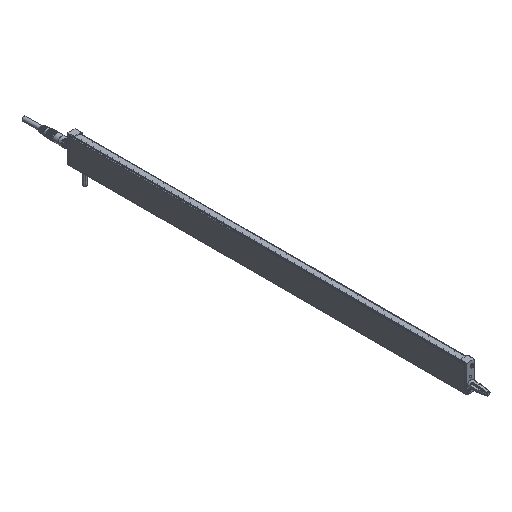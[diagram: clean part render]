
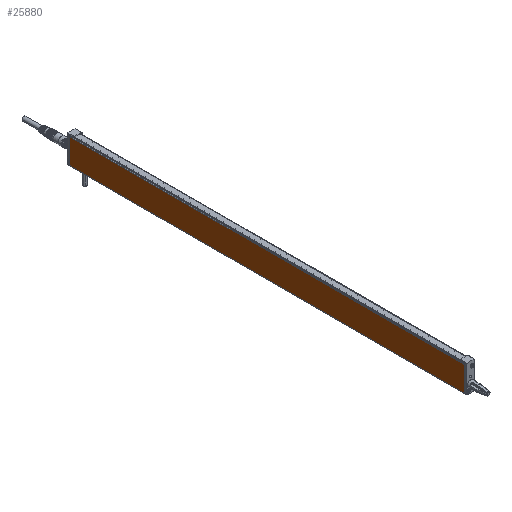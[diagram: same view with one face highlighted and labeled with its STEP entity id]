
A CAD part, isometric view. The second image highlights one B-rep face of the part: STEP entity #25880.
In plain terms, the highlighted planar face has unit normal (-1, 0, 0).
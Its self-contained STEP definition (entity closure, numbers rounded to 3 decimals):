
#345 = EDGE_CURVE ( 'NONE', #10470, #10394, #28689, .T. ) ;
#583 = EDGE_CURVE ( 'NONE', #10394, #4534, #17591, .T. ) ;
#801 = AXIS2_PLACEMENT_3D ( 'NONE', #11945, #9614, #30278 ) ;
#983 = VECTOR ( 'NONE', #31078, 1000. ) ;
#1365 = PLANE ( 'NONE',  #801 ) ;
#1481 = CARTESIAN_POINT ( 'NONE',  ( -9., 445., 28.5 ) ) ;
#1821 = ORIENTED_EDGE ( 'NONE', *, *, #583, .T. ) ;
#4534 = VERTEX_POINT ( 'NONE', #25342 ) ;
#5121 = FACE_OUTER_BOUND ( 'NONE', #27637, .T. ) ;
#6199 = ORIENTED_EDGE ( 'NONE', *, *, #345, .T. ) ;
#6551 = VERTEX_POINT ( 'NONE', #18621 ) ;
#6637 = ORIENTED_EDGE ( 'NONE', *, *, #12020, .F. ) ;
#9614 = DIRECTION ( 'NONE',  ( -1., 0., 0. ) ) ;
#10394 = VERTEX_POINT ( 'NONE', #28816 ) ;
#10470 = VERTEX_POINT ( 'NONE', #1481 ) ;
#10472 = VECTOR ( 'NONE', #11700, 1000. ) ;
#11479 = VECTOR ( 'NONE', #33865, 1000. ) ;
#11700 = DIRECTION ( 'NONE',  ( 0., 0., -1. ) ) ;
#11945 = CARTESIAN_POINT ( 'NONE',  ( -9., 445., 28.5 ) ) ;
#12020 = EDGE_CURVE ( 'NONE', #6551, #4534, #14100, .T. ) ;
#12768 = CARTESIAN_POINT ( 'NONE',  ( -9., 445., 0.5 ) ) ;
#14100 = LINE ( 'NONE', #16932, #10472 ) ;
#14711 = LINE ( 'NONE', #33526, #983 ) ;
#16079 = EDGE_CURVE ( 'NONE', #10470, #6551, #14711, .T. ) ;
#16627 = CARTESIAN_POINT ( 'NONE',  ( -9., 445., 28.5 ) ) ;
#16932 = CARTESIAN_POINT ( 'NONE',  ( -9., 0., 28.5 ) ) ;
#17591 = LINE ( 'NONE', #12768, #11479 ) ;
#18621 = CARTESIAN_POINT ( 'NONE',  ( -9., 0., 28.5 ) ) ;
#20226 = ORIENTED_EDGE ( 'NONE', *, *, #16079, .F. ) ;
#21708 = VECTOR ( 'NONE', #26911, 1000. ) ;
#25342 = CARTESIAN_POINT ( 'NONE',  ( -9., 0., 0.5 ) ) ;
#25880 = ADVANCED_FACE ( 'NONE', ( #5121 ), #1365, .T. ) ;
#26911 = DIRECTION ( 'NONE',  ( 0., 0., -1. ) ) ;
#27637 = EDGE_LOOP ( 'NONE', ( #6637, #20226, #6199, #1821 ) ) ;
#28689 = LINE ( 'NONE', #16627, #21708 ) ;
#28816 = CARTESIAN_POINT ( 'NONE',  ( -9., 445., 0.5 ) ) ;
#30278 = DIRECTION ( 'NONE',  ( 0., -1., 0. ) ) ;
#31078 = DIRECTION ( 'NONE',  ( 0., -1., 0. ) ) ;
#33526 = CARTESIAN_POINT ( 'NONE',  ( -9., 445., 28.5 ) ) ;
#33865 = DIRECTION ( 'NONE',  ( 0., -1., 0. ) ) ;
